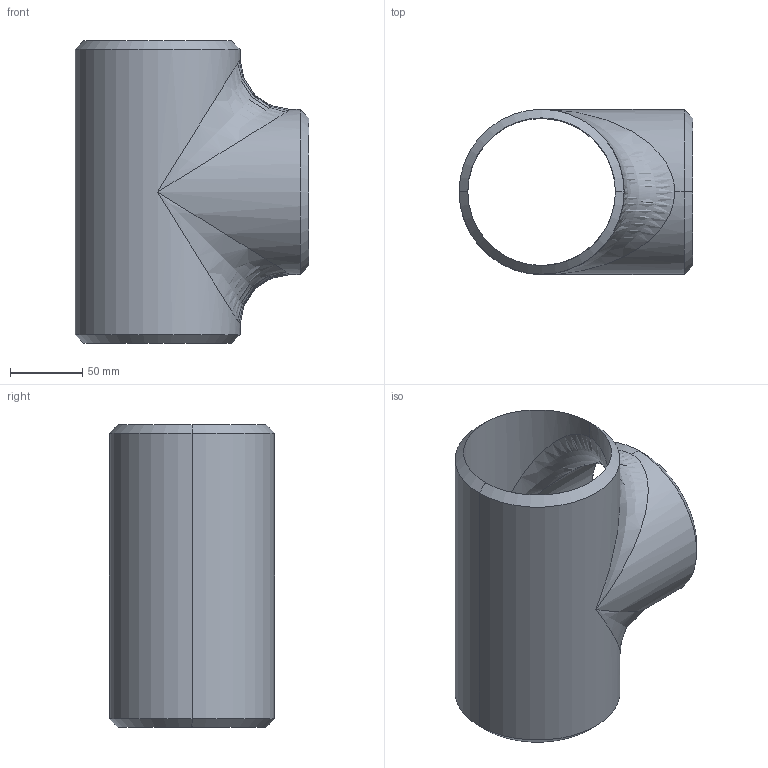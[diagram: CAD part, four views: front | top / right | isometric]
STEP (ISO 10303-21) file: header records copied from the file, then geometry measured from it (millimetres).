
FILE_DESCRIPTION (( 'STEP AP203' ), '1' );
FILE_NAME ('3D_R266_4x40S_173445220.STEP', '2024-08-23T11:15:18', ( '' ), ( '' ), 'SwSTEP 2.0', 'SolidWorks 2024', '' );
FILE_SCHEMA (( 'CONFIG_CONTROL_DESIGN' ));
Length unit declared in the file: millimetre
Products named in the file (1): 3D_R266_4x40S_173445220
Bounding box: 161.95 x 114.3 x 209.6 mm (x, y, z)
Volume: 475869.9 mm3; surface area: 166481.5 mm2
Topology: 1 solids, 1 shells, 21 faces, 58 edges, 30 vertices
Faces by surface type: cylinder 8, cone 6, bspline 4, plane 3
Entity records: 1387 total; most frequent: CARTESIAN_POINT 866, ORIENTED_EDGE 100, DIRECTION 88, EDGE_CURVE 50, AXIS2_PLACEMENT_3D 36, VERTEX_POINT 30, EDGE_LOOP 24, ADVANCED_FACE 21
